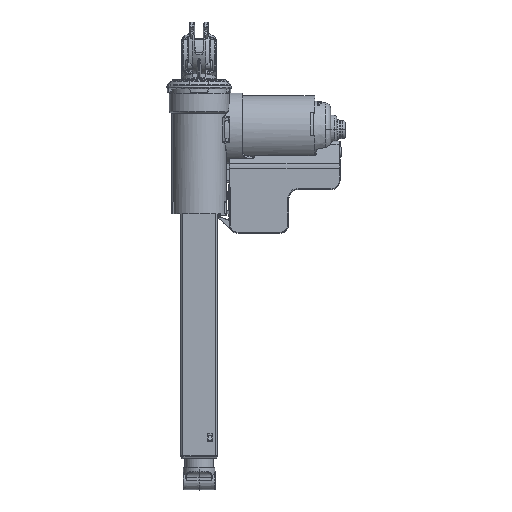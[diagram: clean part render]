
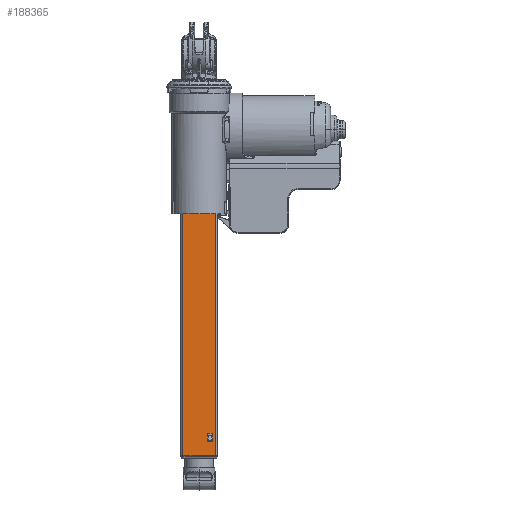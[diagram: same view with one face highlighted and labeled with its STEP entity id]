
A CAD part, left-side view. The second image highlights one B-rep face of the part: STEP entity #188365.
In plain terms, the highlighted planar face has unit normal (-1, 0, 0).
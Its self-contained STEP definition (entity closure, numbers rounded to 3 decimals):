
#17949=DIRECTION('',(0.,-1.,0.));
#17950=VECTOR('',#17949,28.);
#17951=CARTESIAN_POINT('',(-16.,14.,-73.));
#17952=LINE('',#17951,#17950);
#71397=CARTESIAN_POINT('',(-16.,-7.3,-263.65));
#71398=DIRECTION('',(-1.,0.,0.));
#71399=DIRECTION('',(0.,0.,1.));
#71400=AXIS2_PLACEMENT_3D('',#71397,#71398,#71399);
#71402=CARTESIAN_POINT('',(-16.,-7.3,-270.55));
#71403=DIRECTION('',(-1.,0.,0.));
#71404=DIRECTION('',(0.,1.,0.));
#71405=AXIS2_PLACEMENT_3D('',#71402,#71403,#71404);
#71407=CARTESIAN_POINT('',(-16.,-11.5,-270.55));
#71408=DIRECTION('',(-1.,0.,0.));
#71409=DIRECTION('',(0.,0.,-1.));
#71410=AXIS2_PLACEMENT_3D('',#71407,#71408,#71409);
#71412=CARTESIAN_POINT('',(-16.,-11.5,-263.65));
#71413=DIRECTION('',(-1.,0.,0.));
#71414=DIRECTION('',(0.,-1.,0.));
#71415=AXIS2_PLACEMENT_3D('',#71412,#71413,#71414);
#71417=DIRECTION('',(0.,0.,1.));
#71418=VECTOR('',#71417,209.955);
#71419=CARTESIAN_POINT('',(-16.,14.,-282.955));
#71420=LINE('',#71419,#71418);
#71421=DIRECTION('',(0.,0.,-1.));
#71422=VECTOR('',#71421,209.955);
#71423=CARTESIAN_POINT('',(-16.,-14.,-73.));
#71424=LINE('',#71423,#71422);
#71425=DIRECTION('',(0.,-1.,0.));
#71426=VECTOR('',#71425,4.2);
#71427=CARTESIAN_POINT('',(-16.,-7.3,-263.4));
#71428=LINE('',#71427,#71426);
#71481=DIRECTION('',(0.,0.,-1.));
#71482=VECTOR('',#71481,6.9);
#71483=CARTESIAN_POINT('',(-16.,-11.75,-263.65));
#71484=LINE('',#71483,#71482);
#71493=DIRECTION('',(0.,1.,0.));
#71494=VECTOR('',#71493,4.2);
#71495=CARTESIAN_POINT('',(-16.,-11.5,-270.8));
#71496=LINE('',#71495,#71494);
#71505=DIRECTION('',(0.,0.,1.));
#71506=VECTOR('',#71505,6.9);
#71507=CARTESIAN_POINT('',(-16.,-7.05,-270.55));
#71508=LINE('',#71507,#71506);
#72375=DIRECTION('',(0.,-1.,0.));
#72376=VECTOR('',#72375,28.);
#72377=CARTESIAN_POINT('',(-16.,14.,-282.955));
#72378=LINE('',#72377,#72376);
#75313=CARTESIAN_POINT('',(-16.,14.,-282.955));
#75314=CARTESIAN_POINT('',(-16.,-14.,-282.955));
#75315=VERTEX_POINT('',#75313);
#75316=VERTEX_POINT('',#75314);
#75317=CARTESIAN_POINT('',(-16.,-7.3,-263.4));
#75318=CARTESIAN_POINT('',(-16.,-11.5,-263.4));
#75319=VERTEX_POINT('',#75317);
#75320=VERTEX_POINT('',#75318);
#75321=CARTESIAN_POINT('',(-16.,-7.05,-263.65));
#75322=VERTEX_POINT('',#75321);
#75323=CARTESIAN_POINT('',(-16.,-7.05,-270.55));
#75324=VERTEX_POINT('',#75323);
#75325=CARTESIAN_POINT('',(-16.,-7.3,-270.8));
#75326=VERTEX_POINT('',#75325);
#75327=CARTESIAN_POINT('',(-16.,-11.5,-270.8));
#75328=VERTEX_POINT('',#75327);
#75329=CARTESIAN_POINT('',(-16.,-11.75,-270.55));
#75330=VERTEX_POINT('',#75329);
#75331=CARTESIAN_POINT('',(-16.,-11.75,-263.65));
#75332=VERTEX_POINT('',#75331);
#75637=CARTESIAN_POINT('',(-16.,14.,-73.));
#75638=VERTEX_POINT('',#75637);
#75639=CARTESIAN_POINT('',(-16.,-14.,-73.));
#75640=VERTEX_POINT('',#75639);
#188334=CARTESIAN_POINT('',(-16.,14.,53.5));
#188335=DIRECTION('',(-1.,0.,0.));
#188336=DIRECTION('',(0.,-1.,0.));
#188337=AXIS2_PLACEMENT_3D('',#188334,#188335,#188336);
#188338=PLANE('',#188337);
#188340=ORIENTED_EDGE('',*,*,#188339,.T.);
#188341=ORIENTED_EDGE('',*,*,#114449,.T.);
#188342=ORIENTED_EDGE('',*,*,#188324,.T.);
#188344=ORIENTED_EDGE('',*,*,#188343,.F.);
#188345=EDGE_LOOP('',(#188340,#188341,#188342,#188344));
#188346=FACE_OUTER_BOUND('',#188345,.F.);
#188348=ORIENTED_EDGE('',*,*,#188347,.F.);
#188350=ORIENTED_EDGE('',*,*,#188349,.T.);
#188352=ORIENTED_EDGE('',*,*,#188351,.F.);
#188354=ORIENTED_EDGE('',*,*,#188353,.T.);
#188356=ORIENTED_EDGE('',*,*,#188355,.F.);
#188358=ORIENTED_EDGE('',*,*,#188357,.T.);
#188360=ORIENTED_EDGE('',*,*,#188359,.F.);
#188362=ORIENTED_EDGE('',*,*,#188361,.T.);
#188363=EDGE_LOOP('',(#188348,#188350,#188352,#188354,#188356,#188358,#188360,
#188362));
#188364=FACE_BOUND('',#188363,.F.);
#71401=CIRCLE('',#71400,0.25);
#71406=CIRCLE('',#71405,0.25);
#71411=CIRCLE('',#71410,0.25);
#71416=CIRCLE('',#71415,0.25);
#114449=EDGE_CURVE('',#75638,#75640,#17952,.T.);
#188324=EDGE_CURVE('',#75640,#75316,#71424,.T.);
#188339=EDGE_CURVE('',#75315,#75638,#71420,.T.);
#188343=EDGE_CURVE('',#75315,#75316,#72378,.T.);
#188347=EDGE_CURVE('',#75319,#75320,#71428,.T.);
#188349=EDGE_CURVE('',#75319,#75322,#71401,.T.);
#188351=EDGE_CURVE('',#75324,#75322,#71508,.T.);
#188353=EDGE_CURVE('',#75324,#75326,#71406,.T.);
#188355=EDGE_CURVE('',#75328,#75326,#71496,.T.);
#188357=EDGE_CURVE('',#75328,#75330,#71411,.T.);
#188359=EDGE_CURVE('',#75332,#75330,#71484,.T.);
#188361=EDGE_CURVE('',#75332,#75320,#71416,.T.);
#188365=ADVANCED_FACE('',(#188346,#188364),#188338,.T.);
